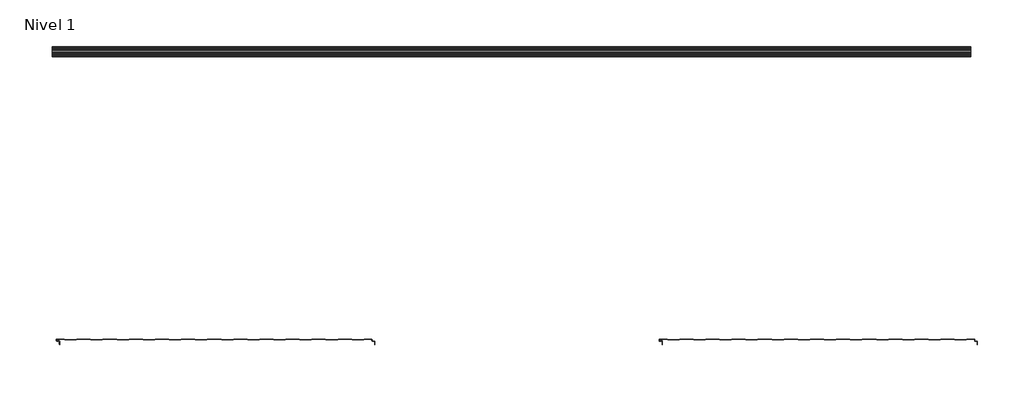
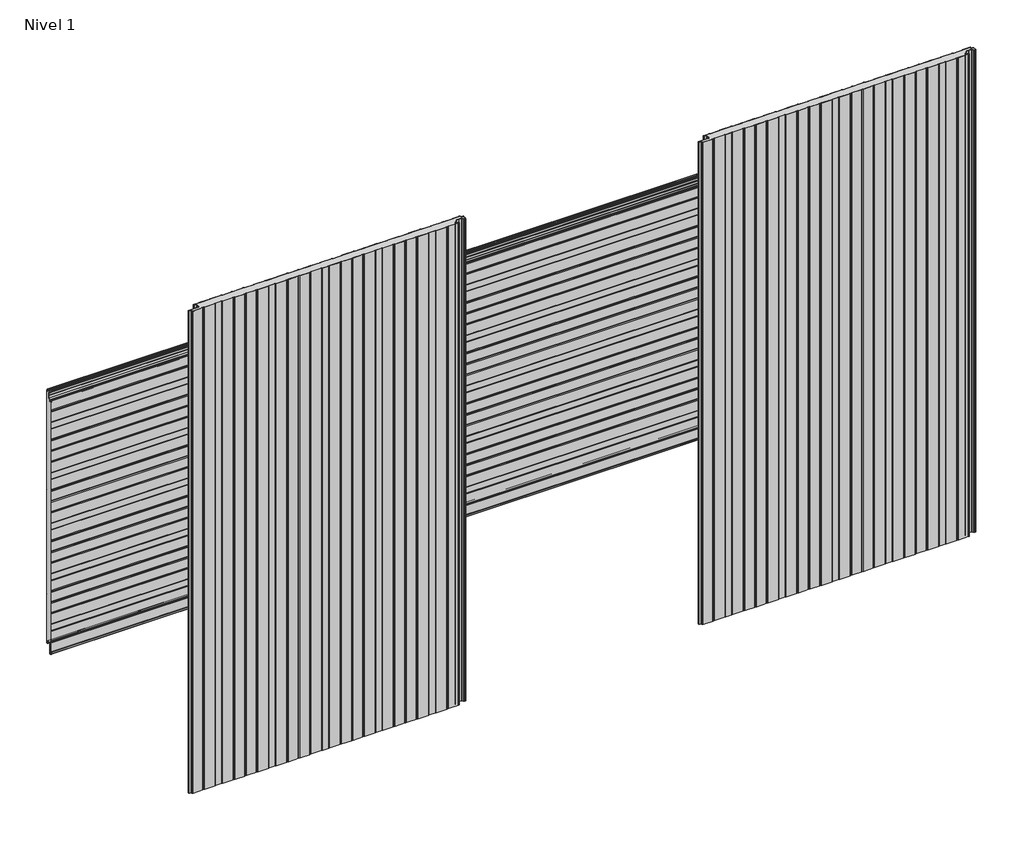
# One storey, incomplete: 3 plates.
"""IFC4 building model written with IfcOpenShell, lengths in millimetres."""

from ifc_helpers import new_model, si_unit, origin, place, context, project, spatial, transform, mapped, element, save
from components import plate_35_mm_552d9d67, plate_35_mm_58eb28ae, plate_35_mm_0eb9a8df, plate_35_mm_b4336f9e, plate_35_mm_4b737334

model = new_model("IFC4")

# Units and contexts
model_context = context("Model", 3, world=origin())
ifc_project = project(units=[si_unit("LENGTHUNIT", "METRE", prefix="MILLI")], contexts=[model_context])

# Site, building, storey
site = spatial("IfcSite", under=ifc_project)
building = spatial("IfcBuilding", under=site)
storey = spatial("IfcBuildingStorey", under=building, Name="Nivel 1", Elevation=0.0)

# Plates
placement = place(None, origin())
plate_35_mm_shape = plate_35_mm_552d9d67(model_context)
plate_35_mm_2_shape = plate_35_mm_58eb28ae(model_context)
element("IfcPlate", 1, ObjectType="HIANSA PANEL - H20.F02.002-PANELES DE FACHADA VERTICAL - PANEL PERFILADO - Panel de Muro Cortina : 35 mm", at=placement, inside=storey, context=model_context, shape_type="MappedRepresentation", body=[
    mapped(plate_35_mm_shape, transform((5418.1436702, 17156.5269271, 0.0), x_axis=(1.0, 0.0, 0.0), y_axis=(0.0, 1.0, 0.0), z_axis=(0.0, 0.0, 1.0))),
    mapped(plate_35_mm_2_shape, transform((5418.1436702, 17156.5269271, 0.0), x_axis=(1.0, 0.0, 0.0), y_axis=(0.0, 1.0, 0.0), z_axis=(0.0, 0.0, 1.0))),
])
element("IfcPlate", 2, ObjectType="HIANSA PANEL - H20.F02.002-PANELES DE FACHADA VERTICAL - PANEL PERFILADO - Panel de Muro Cortina : 35 mm", at=placement, inside=storey, context=model_context, shape_type="MappedRepresentation", body=[
    mapped(plate_35_mm_shape, transform((7518.1436702, 17156.5269271, 0.0), x_axis=(1.0, 0.0, 0.0), y_axis=(0.0, 1.0, 0.0), z_axis=(0.0, 0.0, 1.0))),
    mapped(plate_35_mm_2_shape, transform((7518.1436702, 17156.5269271, 0.0), x_axis=(1.0, 0.0, 0.0), y_axis=(0.0, 1.0, 0.0), z_axis=(0.0, 0.0, 1.0))),
])
plate_35_mm_3_shape = plate_35_mm_0eb9a8df(model_context)
plate_35_mm_4_shape = plate_35_mm_b4336f9e(model_context)
plate_35_mm_5_shape = plate_35_mm_4b737334(model_context)
element("IfcPlate", 3, ObjectType="HIANSA PANEL - H20.F02.002-PANELES DE FACHADA HORIZONTAL - PANEL PERFILADO - Panel de Muro Cortina : 35 mm", at=placement, inside=storey, context=model_context, shape_type="MappedRepresentation", body=[
    mapped(plate_35_mm_3_shape, transform((6468.14367, 18176.5269271, 0.0), x_axis=(1.0, 0.0, 0.0), y_axis=(0.0, 1.0, 0.0), z_axis=(0.0, 0.0, 1.0))),
    mapped(plate_35_mm_4_shape, transform((6468.14367, 18176.5269271, 0.0), x_axis=(1.0, 0.0, 0.0), y_axis=(0.0, 1.0, 0.0), z_axis=(0.0, 0.0, 1.0))),
    mapped(plate_35_mm_5_shape, transform((6468.14367, 18176.5269271, 0.0), x_axis=(1.0, 0.0, 0.0), y_axis=(0.0, 1.0, 0.0), z_axis=(0.0, 0.0, 1.0))),
])

save(model, "model.ifc")
